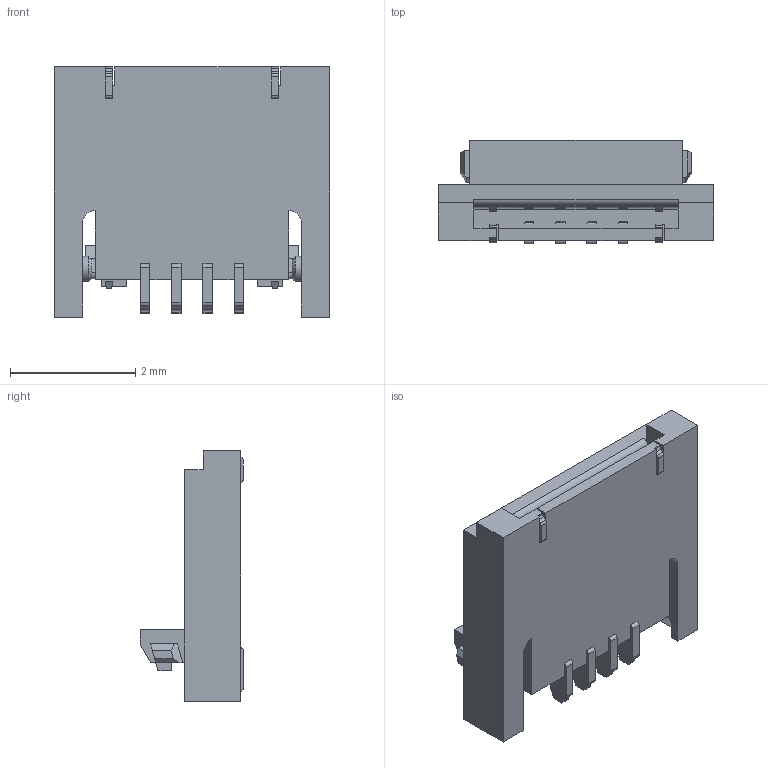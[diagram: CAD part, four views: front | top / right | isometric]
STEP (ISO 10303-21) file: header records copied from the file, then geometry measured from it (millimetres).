
FILE_DESCRIPTION (( 'STEP AP203' ), '1' );
FILE_NAME ('FF14A-4C-R11DL-B-3H(Open).STEP', '2012-04-18T02:17:10', ( '' ), ( '' ), 'SwSTEP 2.0', 'SolidWorks 2011', '' );
FILE_SCHEMA (( 'CONFIG_CONTROL_DESIGN' ));
Length unit declared in the file: millimetre
Products named in the file (1): FF14A-4C-R11DL-B-3H(Open)
Bounding box: 4.4 x 1.66 x 4 mm (x, y, z)
Volume: 11.9 mm3; surface area: 79.1 mm2
Topology: 1 solids, 1 shells, 388 faces, 1128 edges, 749 vertices
Faces by surface type: plane 296, cylinder 89, cone 3
Entity records: 12858 total; most frequent: CARTESIAN_POINT 2383, ORIENTED_EDGE 2256, DIRECTION 2059, EDGE_CURVE 1128, VECTOR 909, LINE 909, VERTEX_POINT 749, AXIS2_PLACEMENT_3D 575
